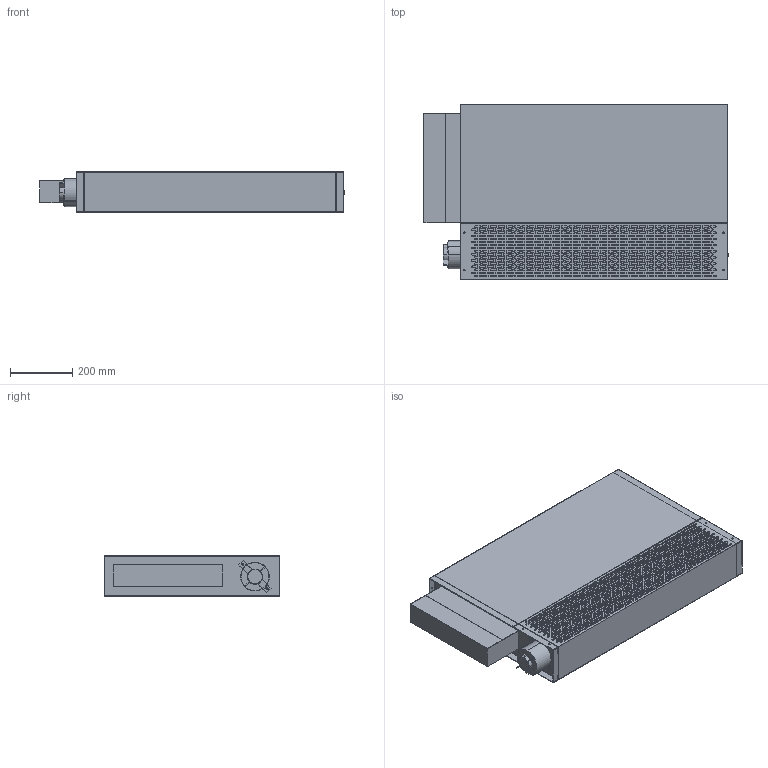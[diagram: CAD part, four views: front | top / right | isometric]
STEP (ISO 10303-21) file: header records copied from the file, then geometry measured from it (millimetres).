
FILE_DESCRIPTION (( 'STEP AP214' ), '1' );
FILE_NAME ('PFWSLA-03.STEP', '2024-09-28T16:13:56', ( '' ), ( '' ), 'SwSTEP 2.0', 'SolidWorks 2023', '' );
FILE_SCHEMA (( 'AUTOMOTIVE_DESIGN' ));
Length unit declared in the file: inch
Products named in the file (1): PFWSLA-03
Bounding box: 977.21 x 561.98 x 130.18 mm (x, y, z)
Volume: 17450512.9 mm3; surface area: 3996422.5 mm2
Topology: 18 solids, 18 shells, 4292 faces, 11952 edges, 7952 vertices
Faces by surface type: plane 2558, cylinder 1734
Entity records: 140434 total; most frequent: CARTESIAN_POINT 24197, DIRECTION 24010, ORIENTED_EDGE 23904, EDGE_CURVE 11952, VECTOR 8480, LINE 8480, VERTEX_POINT 7952, AXIS2_PLACEMENT_3D 7765
